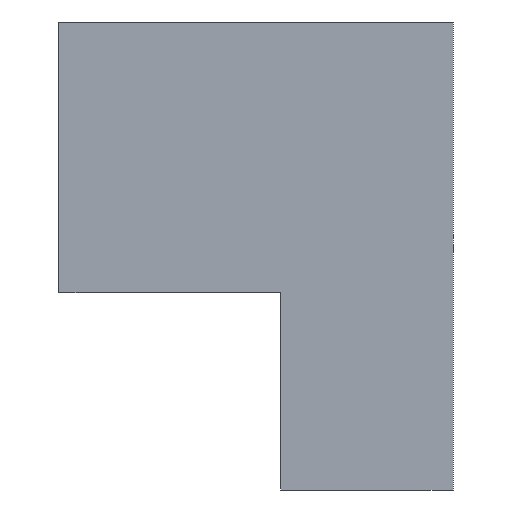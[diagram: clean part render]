
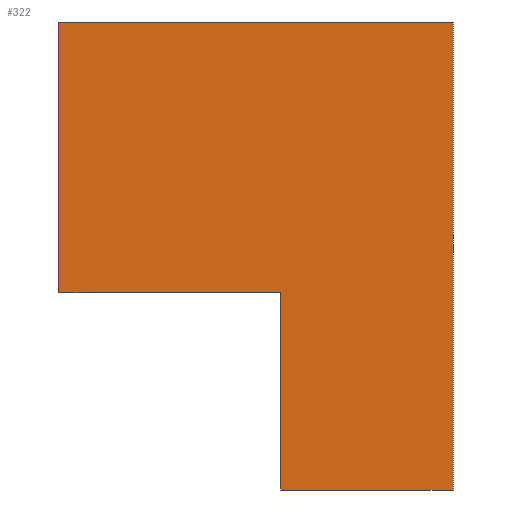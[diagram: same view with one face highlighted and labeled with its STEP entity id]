
A CAD part, left-side view. The second image highlights one B-rep face of the part: STEP entity #322.
In plain terms, the highlighted planar face has unit normal (-1, 0, 0).
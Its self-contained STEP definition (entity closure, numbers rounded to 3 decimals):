
#10=DIRECTION('',(0.,-1.,0.));
#11=VECTOR('',#10,7.);
#12=CARTESIAN_POINT('',(0.,7.,0.));
#13=LINE('',#12,#11);
#59=DIRECTION('',(0.,0.,1.));
#60=VECTOR('',#59,19.);
#61=CARTESIAN_POINT('',(0.,0.,0.));
#62=LINE('',#61,#60);
#63=DIRECTION('',(0.,0.,1.));
#64=VECTOR('',#63,8.);
#65=CARTESIAN_POINT('',(0.,7.,0.));
#66=LINE('',#65,#64);
#67=DIRECTION('',(0.,-1.,0.));
#68=VECTOR('',#67,9.);
#69=CARTESIAN_POINT('',(0.,16.,8.));
#70=LINE('',#69,#68);
#71=DIRECTION('',(0.,0.,1.));
#72=VECTOR('',#71,11.);
#73=CARTESIAN_POINT('',(0.,16.,8.));
#74=LINE('',#73,#72);
#102=DIRECTION('',(0.,-1.,0.));
#103=VECTOR('',#102,16.);
#104=CARTESIAN_POINT('',(0.,16.,19.));
#105=LINE('',#104,#103);
#155=CARTESIAN_POINT('',(0.,0.,0.));
#157=VERTEX_POINT('',#155);
#159=CARTESIAN_POINT('',(0.,0.,19.));
#161=VERTEX_POINT('',#159);
#165=CARTESIAN_POINT('',(0.,16.,19.));
#166=VERTEX_POINT('',#165);
#173=CARTESIAN_POINT('',(0.,16.,8.));
#174=VERTEX_POINT('',#173);
#175=CARTESIAN_POINT('',(0.,7.,0.));
#176=CARTESIAN_POINT('',(0.,7.,8.));
#177=VERTEX_POINT('',#175);
#178=VERTEX_POINT('',#176);
#306=CARTESIAN_POINT('',(0.,16.,0.));
#307=DIRECTION('',(-1.,0.,0.));
#308=DIRECTION('',(0.,-1.,0.));
#309=AXIS2_PLACEMENT_3D('',#306,#307,#308);
#310=PLANE('',#309);
#311=ORIENTED_EDGE('',*,*,#268,.T.);
#313=ORIENTED_EDGE('',*,*,#312,.F.);
#315=ORIENTED_EDGE('',*,*,#314,.T.);
#317=ORIENTED_EDGE('',*,*,#316,.T.);
#318=ORIENTED_EDGE('',*,*,#298,.F.);
#319=ORIENTED_EDGE('',*,*,#212,.F.);
#320=EDGE_LOOP('',(#311,#313,#315,#317,#318,#319));
#321=FACE_OUTER_BOUND('',#320,.F.);
#322=ADVANCED_FACE('',(#321),#310,.T.);
#212=EDGE_CURVE('',#177,#157,#13,.T.);
#268=EDGE_CURVE('',#177,#178,#66,.T.);
#298=EDGE_CURVE('',#157,#161,#62,.T.);
#312=EDGE_CURVE('',#174,#178,#70,.T.);
#314=EDGE_CURVE('',#174,#166,#74,.T.);
#316=EDGE_CURVE('',#166,#161,#105,.T.);
